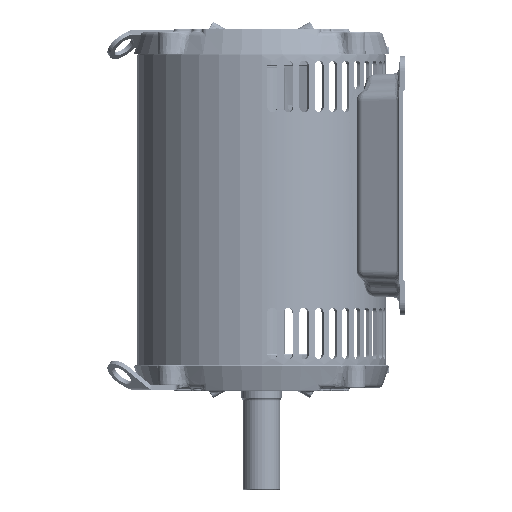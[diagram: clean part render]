
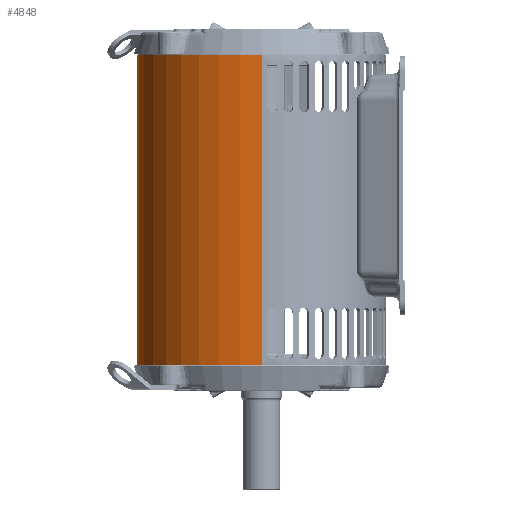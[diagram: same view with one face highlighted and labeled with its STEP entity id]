
A CAD part, left-side view. The second image highlights one B-rep face of the part: STEP entity #4848.
In plain terms, the highlighted cylindrical face has radius 137.879 mm (diameter 275.758 mm), a partial arc.
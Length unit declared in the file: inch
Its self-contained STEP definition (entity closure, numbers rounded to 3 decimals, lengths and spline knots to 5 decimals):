
#1=CARTESIAN_POINT('',(-5.28242,1.25,-4.5785));
#2=CARTESIAN_POINT('',(-5.27929,1.26322,-4.5785));
#3=CARTESIAN_POINT('',(-5.27334,1.28795,-4.57405));
#4=CARTESIAN_POINT('',(-5.26485,1.32216,-4.55443));
#5=CARTESIAN_POINT('',(-5.25855,1.34692,-4.52451));
#6=CARTESIAN_POINT('',(-5.25519,1.35995,-4.48859));
#7=CARTESIAN_POINT('',(-5.25514,1.36012,-4.45016));
#8=CARTESIAN_POINT('',(-5.25849,1.34715,-4.41392));
#9=CARTESIAN_POINT('',(-5.26468,1.32286,-4.38416));
#10=CARTESIAN_POINT('',(-5.27325,1.2883,-4.36401));
#11=CARTESIAN_POINT('',(-5.27926,1.26336,-4.3595));
#12=CARTESIAN_POINT('',(-5.28242,1.25,-4.3595));
#14=CARTESIAN_POINT('',(-5.28242,1.25,-4.3595));
#15=CARTESIAN_POINT('',(-5.28554,1.23681,-4.3595));
#16=CARTESIAN_POINT('',(-5.29128,1.21212,-4.36394));
#17=CARTESIAN_POINT('',(-5.29898,1.17797,-4.38347));
#18=CARTESIAN_POINT('',(-5.30441,1.15315,-4.41335));
#19=CARTESIAN_POINT('',(-5.30724,1.14004,-4.44935));
#20=CARTESIAN_POINT('',(-5.30727,1.13988,-4.48792));
#21=CARTESIAN_POINT('',(-5.30446,1.15294,-4.52424));
#22=CARTESIAN_POINT('',(-5.29913,1.17729,-4.55396));
#23=CARTESIAN_POINT('',(-5.29135,1.21181,-4.57402));
#24=CARTESIAN_POINT('',(-5.28557,1.23669,-4.5785));
#25=CARTESIAN_POINT('',(-5.28242,1.25,-4.5785));
#27=CARTESIAN_POINT('',(0.,0.,-6.733));
#28=DIRECTION('',(0.,0.,1.));
#29=DIRECTION('',(1.,0.,0.));
#30=AXIS2_PLACEMENT_3D('',#27,#28,#29);
#32=DIRECTION('',(0.,0.,1.));
#33=VECTOR('',#32,13.467);
#34=CARTESIAN_POINT('',(5.4283,0.,-6.733));
#35=LINE('',#34,#33);
#36=CARTESIAN_POINT('',(0.,0.,6.734));
#37=DIRECTION('',(0.,0.,1.));
#38=DIRECTION('',(1.,0.,0.));
#39=AXIS2_PLACEMENT_3D('',#36,#37,#38);
#41=CARTESIAN_POINT('',(0.,0.,-2.409));
#42=DIRECTION('',(0.,0.,1.));
#43=DIRECTION('',(-0.993,0.114,0.));
#44=AXIS2_PLACEMENT_3D('',#41,#42,#43);
#46=CARTESIAN_POINT('',(-5.37624,0.75,-2.539));
#47=CARTESIAN_POINT('',(-5.37624,0.75,-2.52516));
#48=CARTESIAN_POINT('',(-5.37683,0.74581,-2.49885));
#49=CARTESIAN_POINT('',(-5.37937,0.72731,-2.46183));
#50=CARTESIAN_POINT('',(-5.38326,0.69813,-2.43235));
#51=CARTESIAN_POINT('',(-5.38797,0.66084,-2.41335));
#52=CARTESIAN_POINT('',(-5.39115,0.63412,-2.409));
#53=CARTESIAN_POINT('',(-5.39278,0.62,-2.409));
#55=DIRECTION('',(0.,0.,1.));
#56=VECTOR('',#55,2.99);
#57=CARTESIAN_POINT('',(-5.37624,0.75,-5.529));
#58=LINE('',#57,#56);
#59=CARTESIAN_POINT('',(-5.39278,0.62,-5.659));
#60=CARTESIAN_POINT('',(-5.39117,0.63396,-5.659));
#61=CARTESIAN_POINT('',(-5.38802,0.66045,-5.65474));
#62=CARTESIAN_POINT('',(-5.38333,0.6976,-5.63602));
#63=CARTESIAN_POINT('',(-5.37942,0.72695,-5.6067));
#64=CARTESIAN_POINT('',(-5.37684,0.74573,-5.56951));
#65=CARTESIAN_POINT('',(-5.37624,0.75,-5.54299));
#66=CARTESIAN_POINT('',(-5.37624,0.75,-5.529));
#68=CARTESIAN_POINT('',(0.,0.,-5.659));
#69=DIRECTION('',(0.,0.,1.));
#70=DIRECTION('',(-0.993,0.114,0.));
#71=AXIS2_PLACEMENT_3D('',#68,#69,#70);
#1730=DIRECTION('',(0.,0.,1.));
#1731=VECTOR('',#1730,1.074);
#1732=CARTESIAN_POINT('',(-5.4283,0.,-6.733));
#1733=LINE('',#1732,#1731);
#1766=DIRECTION('',(0.,0.,1.));
#1767=VECTOR('',#1766,9.143);
#1768=CARTESIAN_POINT('',(-5.4283,0.,-2.409));
#1769=LINE('',#1768,#1767);
#4729=VERTEX_POINT('',#1);
#4730=VERTEX_POINT('',#12);
#4731=VERTEX_POINT('',#46);
#4732=VERTEX_POINT('',#53);
#4733=CARTESIAN_POINT('',(-5.4283,0.,-2.409));
#4734=VERTEX_POINT('',#4733);
#4735=CARTESIAN_POINT('',(-5.39278,0.62,-5.659));
#4736=CARTESIAN_POINT('',(-5.4283,0.,-5.659));
#4737=VERTEX_POINT('',#4735);
#4738=VERTEX_POINT('',#4736);
#4739=VERTEX_POINT('',#66);
#4799=CARTESIAN_POINT('',(5.4283,0.,-6.733));
#4800=CARTESIAN_POINT('',(-5.4283,0.,-6.733));
#4801=VERTEX_POINT('',#4799);
#4802=VERTEX_POINT('',#4800);
#4803=CARTESIAN_POINT('',(5.4283,0.,6.734));
#4804=CARTESIAN_POINT('',(-5.4283,0.,6.734));
#4805=VERTEX_POINT('',#4803);
#4806=VERTEX_POINT('',#4804);
#4815=CARTESIAN_POINT('',(0.,0.,-7.));
#4816=DIRECTION('',(0.,0.,1.));
#4817=DIRECTION('',(1.,0.,0.));
#4818=AXIS2_PLACEMENT_3D('',#4815,#4816,#4817);
#4819=CYLINDRICAL_SURFACE('',#4818,5.4283);
#4821=ORIENTED_EDGE('',*,*,#4820,.F.);
#4823=ORIENTED_EDGE('',*,*,#4822,.T.);
#4825=ORIENTED_EDGE('',*,*,#4824,.T.);
#4827=ORIENTED_EDGE('',*,*,#4826,.F.);
#4829=ORIENTED_EDGE('',*,*,#4828,.F.);
#4831=ORIENTED_EDGE('',*,*,#4830,.F.);
#4833=ORIENTED_EDGE('',*,*,#4832,.F.);
#4835=ORIENTED_EDGE('',*,*,#4834,.F.);
#4837=ORIENTED_EDGE('',*,*,#4836,.T.);
#4839=ORIENTED_EDGE('',*,*,#4838,.F.);
#4840=EDGE_LOOP('',(#4821,#4823,#4825,#4827,#4829,#4831,#4833,#4835,#4837,
#4839));
#4841=FACE_OUTER_BOUND('',#4840,.F.);
#4843=ORIENTED_EDGE('',*,*,#4842,.F.);
#4845=ORIENTED_EDGE('',*,*,#4844,.F.);
#4846=EDGE_LOOP('',(#4843,#4845));
#4847=FACE_BOUND('',#4846,.F.);
#4848=ADVANCED_FACE('',(#4841,#4847),#4819,.T.);
#13=B_SPLINE_CURVE_WITH_KNOTS('',3,(#1,#2,#3,#4,#5,#6,#7,#8,#9,#10,#11,#12),
.UNSPECIFIED.,.F.,.F.,(4,1,1,1,1,1,1,1,1,4),(0.,0.11111,
0.22222,0.33333,0.44444,0.55556,
0.66667,0.77778,0.88889,1.),.UNSPECIFIED.);
#26=B_SPLINE_CURVE_WITH_KNOTS('',3,(#14,#15,#16,#17,#18,#19,#20,#21,#22,#23,#24,
#25),.UNSPECIFIED.,.F.,.F.,(4,1,1,1,1,1,1,1,1,4),(0.,0.11111,
0.22222,0.33333,0.44444,0.55556,
0.66667,0.77778,0.88889,1.),.UNSPECIFIED.);
#31=CIRCLE('',#30,5.4283);
#40=CIRCLE('',#39,5.4283);
#45=CIRCLE('',#44,5.4283);
#54=B_SPLINE_CURVE_WITH_KNOTS('',3,(#46,#47,#48,#49,#50,#51,#52,#53),
.UNSPECIFIED.,.F.,.F.,(4,1,1,1,1,4),(0.,0.2,0.4,0.6,0.8,1.),
.UNSPECIFIED.);
#67=B_SPLINE_CURVE_WITH_KNOTS('',3,(#59,#60,#61,#62,#63,#64,#65,#66),
.UNSPECIFIED.,.F.,.F.,(4,1,1,1,1,4),(0.,0.2,0.4,0.6,0.8,1.),
.UNSPECIFIED.);
#72=CIRCLE('',#71,5.4283);
#4820=EDGE_CURVE('',#4801,#4802,#31,.T.);
#4822=EDGE_CURVE('',#4801,#4805,#35,.T.);
#4824=EDGE_CURVE('',#4805,#4806,#40,.T.);
#4826=EDGE_CURVE('',#4734,#4806,#1769,.T.);
#4828=EDGE_CURVE('',#4732,#4734,#45,.T.);
#4830=EDGE_CURVE('',#4731,#4732,#54,.T.);
#4832=EDGE_CURVE('',#4739,#4731,#58,.T.);
#4834=EDGE_CURVE('',#4737,#4739,#67,.T.);
#4836=EDGE_CURVE('',#4737,#4738,#72,.T.);
#4838=EDGE_CURVE('',#4802,#4738,#1733,.T.);
#4842=EDGE_CURVE('',#4729,#4730,#13,.T.);
#4844=EDGE_CURVE('',#4730,#4729,#26,.T.);
